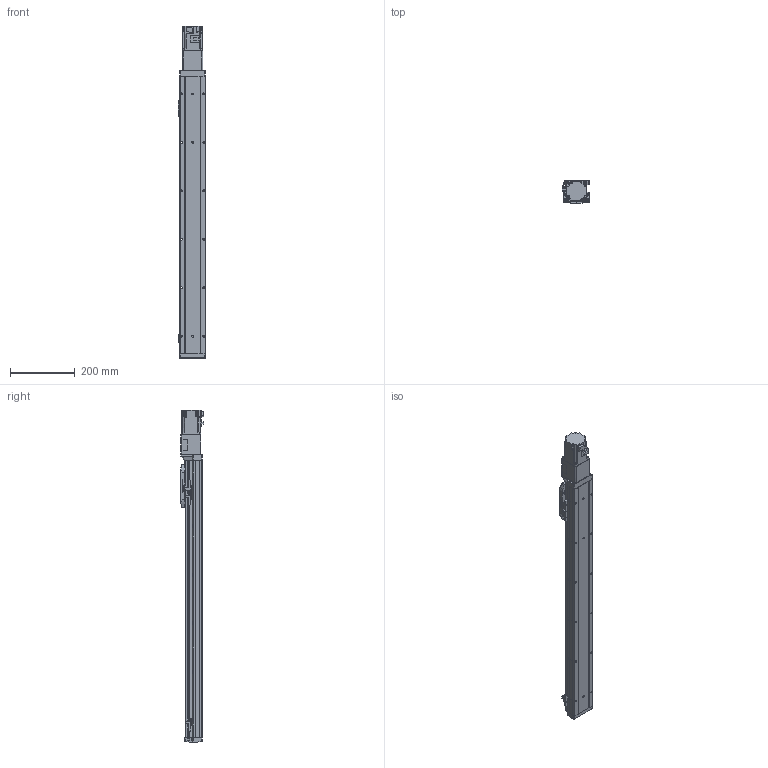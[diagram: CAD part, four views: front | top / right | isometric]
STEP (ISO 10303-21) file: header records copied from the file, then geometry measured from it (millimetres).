
FILE_DESCRIPTION (( 'STEP AP214' ), '1' );
FILE_NAME ('GSH8-700-BC-M20-1.step', '2025-01-07T06:04:14', ( '' ), ( '' ), 'SwSTEP 2.0', 'SolidWorks 2012', '' );
FILE_SCHEMA (( 'AUTOMOTIVE_DESIGN' ));
Length unit declared in the file: millimetre
Products named in the file (4): GSH8-GY-004; HG-KR23_200W_Motor; GSH8-BC-011-700-M20; GSH8-700-BC-M20-1
Assembly tree (3 placements, depth 2):
  GSH8-700-BC-M20-1
    GSH8-BC-011-700-M20
    GSH8-GY-004
    HG-KR23_200W_Motor
Bounding box: 84 x 71.3 x 1027.6 mm (x, y, z)
Volume: 2062934.1 mm3; surface area: 552500.3 mm2
Topology: 3 solids, 7 shells, 1135 faces, 3008 edges, 1938 vertices
Faces by surface type: plane 652, cylinder 391, torus 38, cone 26, bspline 24, sphere 4
Entity records: 44442 total; most frequent: CARTESIAN_POINT 9981, DIRECTION 6092, ORIENTED_EDGE 6000, EDGE_CURVE 3000, AXIS2_PLACEMENT_3D 2045, LINE 2002, VECTOR 2002, VERTEX_POINT 1934
